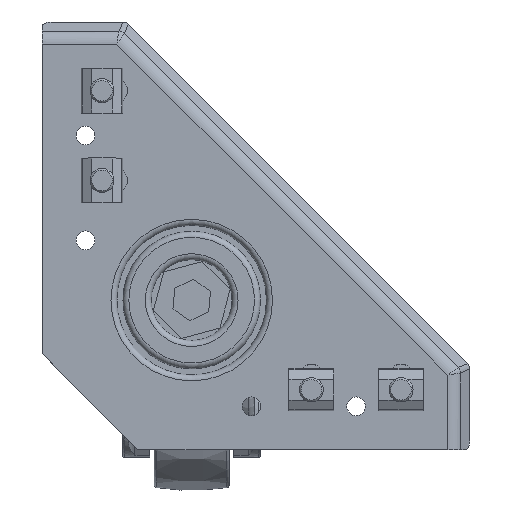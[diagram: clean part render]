
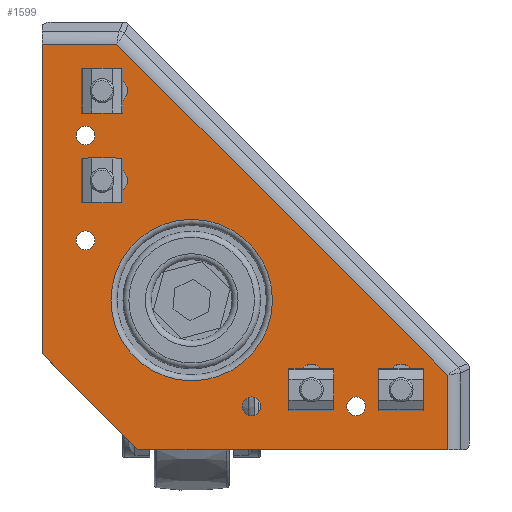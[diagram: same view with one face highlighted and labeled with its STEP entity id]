
A CAD part, top view. The second image highlights one B-rep face of the part: STEP entity #1599.
In plain terms, the highlighted planar face has unit normal (0, 0, 1).
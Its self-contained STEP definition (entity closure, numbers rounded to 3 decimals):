
#1599=ADVANCED_FACE('',(#3075,#3076,#3077,#3078,#3079,#3080,#3081,#3082,#3083,#3084),#3085,.T.);
#3075=FACE_BOUND('',#5466,.T.);
#3076=FACE_BOUND('',#5467,.T.);
#3077=FACE_BOUND('',#5468,.T.);
#3078=FACE_BOUND('',#5469,.T.);
#3079=FACE_BOUND('',#5470,.T.);
#3080=FACE_BOUND('',#5471,.T.);
#3081=FACE_BOUND('',#5472,.T.);
#3082=FACE_BOUND('',#5473,.T.);
#3083=FACE_BOUND('',#5474,.T.);
#3084=FACE_OUTER_BOUND('',#5475,.T.);
#3085=PLANE('',#5476);
#5466=EDGE_LOOP('',(#8776));
#5467=EDGE_LOOP('',(#8777,#8778,#8779,#8780));
#5468=EDGE_LOOP('',(#8781,#8782,#8783,#8784));
#5469=EDGE_LOOP('',(#8785,#8786,#8787,#8788));
#5470=EDGE_LOOP('',(#8789,#8790,#8791,#8792));
#5471=EDGE_LOOP('',(#8793));
#5472=EDGE_LOOP('',(#8794));
#5473=EDGE_LOOP('',(#8795));
#5474=EDGE_LOOP('',(#8796));
#5475=EDGE_LOOP('',(#8797,#8798,#8799,#8800,#8801,#8802));
#5476=AXIS2_PLACEMENT_3D('',#8803,#8804,#8805);
#8776=ORIENTED_EDGE('',*,*,#10636,.T.);
#8777=ORIENTED_EDGE('',*,*,#9980,.F.);
#8778=ORIENTED_EDGE('',*,*,#10680,.F.);
#8779=ORIENTED_EDGE('',*,*,#10921,.F.);
#8780=ORIENTED_EDGE('',*,*,#10749,.F.);
#8781=ORIENTED_EDGE('',*,*,#10715,.F.);
#8782=ORIENTED_EDGE('',*,*,#10336,.F.);
#8783=ORIENTED_EDGE('',*,*,#10757,.F.);
#8784=ORIENTED_EDGE('',*,*,#9856,.F.);
#8785=ORIENTED_EDGE('',*,*,#9718,.F.);
#8786=ORIENTED_EDGE('',*,*,#10377,.F.);
#8787=ORIENTED_EDGE('',*,*,#10884,.F.);
#8788=ORIENTED_EDGE('',*,*,#10541,.F.);
#8789=ORIENTED_EDGE('',*,*,#10666,.F.);
#8790=ORIENTED_EDGE('',*,*,#9908,.F.);
#8791=ORIENTED_EDGE('',*,*,#10601,.F.);
#8792=ORIENTED_EDGE('',*,*,#10318,.F.);
#8793=ORIENTED_EDGE('',*,*,#9708,.F.);
#8794=ORIENTED_EDGE('',*,*,#9950,.F.);
#8795=ORIENTED_EDGE('',*,*,#10642,.F.);
#8796=ORIENTED_EDGE('',*,*,#9785,.F.);
#8797=ORIENTED_EDGE('',*,*,#10916,.T.);
#8798=ORIENTED_EDGE('',*,*,#9773,.T.);
#8799=ORIENTED_EDGE('',*,*,#10545,.T.);
#8800=ORIENTED_EDGE('',*,*,#10922,.T.);
#8801=ORIENTED_EDGE('',*,*,#10117,.T.);
#8802=ORIENTED_EDGE('',*,*,#10923,.T.);
#8803=CARTESIAN_POINT('',(7.0,15.375,2607.877));
#8804=DIRECTION('',(0.0,0.0,1.0));
#8805=DIRECTION('',(1.0,0.0,0.0));
#9708=EDGE_CURVE('',#11282,#11282,#11283,.T.);
#9718=EDGE_CURVE('',#11299,#11300,#11301,.T.);
#9773=EDGE_CURVE('',#11391,#11395,#11397,.F.);
#9785=EDGE_CURVE('',#11417,#11417,#11418,.T.);
#9856=EDGE_CURVE('',#11534,#11535,#11536,.T.);
#9908=EDGE_CURVE('',#11624,#11625,#11626,.T.);
#9950=EDGE_CURVE('',#11694,#11694,#11695,.T.);
#9980=EDGE_CURVE('',#11744,#11745,#11746,.T.);
#10117=EDGE_CURVE('',#11971,#11972,#11973,.T.);
#10318=EDGE_CURVE('',#12299,#12300,#12301,.T.);
#10336=EDGE_CURVE('',#12326,#12327,#12328,.T.);
#10377=EDGE_CURVE('',#12387,#11299,#12388,.T.);
#10541=EDGE_CURVE('',#11300,#12607,#12608,.T.);
#10545=EDGE_CURVE('',#11395,#12612,#12614,.F.);
#10601=EDGE_CURVE('',#12300,#11624,#12686,.T.);
#10636=EDGE_CURVE('',#12735,#12735,#12736,.F.);
#10642=EDGE_CURVE('',#12743,#12743,#12744,.T.);
#10666=EDGE_CURVE('',#11625,#12299,#12773,.T.);
#10680=EDGE_CURVE('',#12791,#11744,#12792,.T.);
#10715=EDGE_CURVE('',#12327,#11534,#12838,.T.);
#10749=EDGE_CURVE('',#11745,#12879,#12880,.T.);
#10757=EDGE_CURVE('',#11535,#12326,#12889,.T.);
#10884=EDGE_CURVE('',#12607,#12387,#13045,.T.);
#10916=EDGE_CURVE('',#13082,#11391,#13083,.T.);
#10921=EDGE_CURVE('',#12879,#12791,#13088,.T.);
#10922=EDGE_CURVE('',#12612,#11971,#13089,.F.);
#10923=EDGE_CURVE('',#11972,#13082,#13090,.T.);
#11282=VERTEX_POINT('',#13643);
#11283=CIRCLE('',#13644,3.125);
#11299=VERTEX_POINT('',#13667);
#11300=VERTEX_POINT('',#13668);
#11301=LINE('',#13669,#13670);
#11391=VERTEX_POINT('',#13827);
#11395=VERTEX_POINT('',#13832);
#11397=LINE('',#13834,#13835);
#11417=VERTEX_POINT('',#13863);
#11418=CIRCLE('',#13864,3.125);
#11534=VERTEX_POINT('',#14038);
#11535=VERTEX_POINT('',#14039);
#11536=LINE('',#14040,#14041);
#11624=VERTEX_POINT('',#14250);
#11625=VERTEX_POINT('',#14251);
#11626=LINE('',#14252,#14253);
#11694=VERTEX_POINT('',#14354);
#11695=CIRCLE('',#14355,3.125);
#11744=VERTEX_POINT('',#14425);
#11745=VERTEX_POINT('',#14426);
#11746=CIRCLE('',#14427,4.15);
#11971=VERTEX_POINT('',#14807);
#11972=VERTEX_POINT('',#14808);
#11973=LINE('',#14809,#14810);
#12299=VERTEX_POINT('',#15244);
#12300=VERTEX_POINT('',#15245);
#12301=LINE('',#15246,#15247);
#12326=VERTEX_POINT('',#15282);
#12327=VERTEX_POINT('',#15283);
#12328=LINE('',#15284,#15285);
#12387=VERTEX_POINT('',#15381);
#12388=CIRCLE('',#15382,4.15);
#12607=VERTEX_POINT('',#15928);
#12608=CIRCLE('',#15929,4.15);
#12612=VERTEX_POINT('',#15934);
#12614=LINE('',#15936,#15937);
#12686=CIRCLE('',#16055,4.15);
#12735=VERTEX_POINT('',#16125);
#12736=CIRCLE('',#16126,27.0);
#12743=VERTEX_POINT('',#16135);
#12744=CIRCLE('',#16136,3.125);
#12773=CIRCLE('',#16180,4.15);
#12791=VERTEX_POINT('',#16215);
#12792=LINE('',#16216,#16217);
#12838=CIRCLE('',#16323,4.15);
#12879=VERTEX_POINT('',#16394);
#12880=LINE('',#16395,#16396);
#12889=CIRCLE('',#16407,4.15);
#13045=LINE('',#16674,#16675);
#13082=VERTEX_POINT('',#16728);
#13083=LINE('',#16729,#16730);
#13088=CIRCLE('',#16737,4.15);
#13089=LINE('',#16738,#16739);
#13090=LINE('',#16740,#16741);
#13643=CARTESIAN_POINT('',(73.125,54.875,2607.877));
#13644=AXIS2_PLACEMENT_3D('',#17082,#17083,#17084);
#13667=CARTESIAN_POINT('',(94.15,59.975,2607.877));
#13668=CARTESIAN_POINT('',(94.15,64.775,2607.877));
#13669=CARTESIAN_POINT('',(94.15,59.975,2607.877));
#13670=VECTOR('',#17096,1.0);
#13827=CARTESIAN_POINT('',(135.61,40.375,2607.877));
#13832=CARTESIAN_POINT('',(135.61,65.313,2607.877));
#13834=CARTESIAN_POINT('',(135.61,65.433,2607.877));
#13835=VECTOR('',#17171,1.0);
#13863=CARTESIAN_POINT('',(17.625,110.375,2607.877));
#13864=AXIS2_PLACEMENT_3D('',#17180,#17181,#17182);
#14038=CARTESIAN_POINT('',(124.15,59.975,2607.877));
#14039=CARTESIAN_POINT('',(124.15,64.775,2607.877));
#14040=CARTESIAN_POINT('',(124.15,59.975,2607.877));
#14041=VECTOR('',#17275,1.0);
#14250=CARTESIAN_POINT('',(19.6,126.225,2607.877));
#14251=CARTESIAN_POINT('',(24.4,126.225,2607.877));
#14252=CARTESIAN_POINT('',(19.6,126.225,2607.877));
#14253=VECTOR('',#17328,1.0);
#14354=CARTESIAN_POINT('',(108.125,54.875,2607.877));
#14355=AXIS2_PLACEMENT_3D('',#17372,#17373,#17374);
#14425=CARTESIAN_POINT('',(24.4,156.225,2607.877));
#14426=CARTESIAN_POINT('',(24.4,164.525,2607.877));
#14427=AXIS2_PLACEMENT_3D('',#17406,#17407,#17408);
#14807=CARTESIAN_POINT('',(0.0,175.984,2607.877));
#14808=CARTESIAN_POINT('',(0.0,72.375,2607.877));
#14809=CARTESIAN_POINT('',(0.0,184.529,2607.877));
#14810=VECTOR('',#17573,1.0);
#15244=CARTESIAN_POINT('',(24.4,134.525,2607.877));
#15245=CARTESIAN_POINT('',(19.6,134.525,2607.877));
#15246=CARTESIAN_POINT('',(24.4,134.525,2607.877));
#15247=VECTOR('',#17907,1.0);
#15282=CARTESIAN_POINT('',(115.85,64.775,2607.877));
#15283=CARTESIAN_POINT('',(115.85,59.975,2607.877));
#15284=CARTESIAN_POINT('',(115.85,64.775,2607.877));
#15285=VECTOR('',#17924,1.0);
#15381=CARTESIAN_POINT('',(85.85,59.975,2607.877));
#15382=AXIS2_PLACEMENT_3D('',#17963,#17964,#17965);
#15928=CARTESIAN_POINT('',(85.85,64.775,2607.877));
#15929=AXIS2_PLACEMENT_3D('',#18087,#18088,#18089);
#15934=CARTESIAN_POINT('',(24.939,175.984,2607.877));
#15936=CARTESIAN_POINT('',(24.854,176.069,2607.877));
#15937=VECTOR('',#18094,1.0);
#16055=AXIS2_PLACEMENT_3D('',#18156,#18157,#18158);
#16125=CARTESIAN_POINT('',(77.0,90.375,2607.877));
#16126=AXIS2_PLACEMENT_3D('',#18193,#18194,#18195);
#16135=CARTESIAN_POINT('',(17.625,145.375,2607.877));
#16136=AXIS2_PLACEMENT_3D('',#18201,#18202,#18203);
#16180=AXIS2_PLACEMENT_3D('',#18226,#18227,#18228);
#16215=CARTESIAN_POINT('',(19.6,156.225,2607.877));
#16216=CARTESIAN_POINT('',(19.6,156.225,2607.877));
#16217=VECTOR('',#18234,1.0);
#16323=AXIS2_PLACEMENT_3D('',#18265,#18266,#18267);
#16394=CARTESIAN_POINT('',(19.6,164.525,2607.877));
#16395=CARTESIAN_POINT('',(24.4,164.525,2607.877));
#16396=VECTOR('',#18295,1.0);
#16407=AXIS2_PLACEMENT_3D('',#18304,#18305,#18306);
#16674=CARTESIAN_POINT('',(85.85,64.775,2607.877));
#16675=VECTOR('',#18412,1.0);
#16728=CARTESIAN_POINT('',(32.0,40.375,2607.877));
#16729=CARTESIAN_POINT('',(32.0,40.375,2607.877));
#16730=VECTOR('',#18435,1.0);
#16737=AXIS2_PLACEMENT_3D('',#18438,#18439,#18440);
#16738=CARTESIAN_POINT('',(0.0,175.984,2607.877));
#16739=VECTOR('',#18441,1.0);
#16740=CARTESIAN_POINT('',(0.0,72.375,2607.877));
#16741=VECTOR('',#18442,1.0);
#17082=CARTESIAN_POINT('',(70.0,54.875,2607.877));
#17083=DIRECTION('',(0.0,0.0,1.0));
#17084=DIRECTION('',(1.0,0.0,0.0));
#17096=DIRECTION('',(0.0,1.0,0.0));
#17171=DIRECTION('',(0.0,-1.0,0.0));
#17180=CARTESIAN_POINT('',(14.5,110.375,2607.877));
#17181=DIRECTION('',(0.0,0.0,1.0));
#17182=DIRECTION('',(1.0,0.0,0.0));
#17275=DIRECTION('',(0.0,1.0,0.0));
#17328=DIRECTION('',(1.0,0.0,0.0));
#17372=CARTESIAN_POINT('',(105.0,54.875,2607.877));
#17373=DIRECTION('',(0.0,0.0,1.0));
#17374=DIRECTION('',(1.0,0.0,0.0));
#17406=CARTESIAN_POINT('',(24.4,160.375,2607.877));
#17407=DIRECTION('',(0.0,0.0,1.0));
#17408=DIRECTION('',(1.0,0.0,0.0));
#17573=DIRECTION('',(0.0,-1.0,0.0));
#17907=DIRECTION('',(-1.0,0.,0.0));
#17924=DIRECTION('',(0.0,-1.0,0.0));
#17963=CARTESIAN_POINT('',(90.0,59.975,2607.877));
#17964=DIRECTION('',(0.0,0.0,1.0));
#17965=DIRECTION('',(1.0,0.0,0.0));
#18087=CARTESIAN_POINT('',(90.0,64.775,2607.877));
#18088=DIRECTION('',(0.0,0.0,1.0));
#18089=DIRECTION('',(1.0,0.0,0.0));
#18094=DIRECTION('',(0.707,-0.707,0.0));
#18156=CARTESIAN_POINT('',(19.6,130.375,2607.877));
#18157=DIRECTION('',(0.0,0.0,1.0));
#18158=DIRECTION('',(1.0,0.0,0.0));
#18193=CARTESIAN_POINT('',(50.0,90.375,2607.877));
#18194=DIRECTION('',(0.0,0.0,1.0));
#18195=DIRECTION('',(1.0,0.0,0.0));
#18201=CARTESIAN_POINT('',(14.5,145.375,2607.877));
#18202=DIRECTION('',(0.0,0.0,1.0));
#18203=DIRECTION('',(1.0,0.0,0.0));
#18226=CARTESIAN_POINT('',(24.4,130.375,2607.877));
#18227=DIRECTION('',(0.0,0.0,1.0));
#18228=DIRECTION('',(1.0,0.0,0.0));
#18234=DIRECTION('',(1.0,0.0,0.0));
#18265=CARTESIAN_POINT('',(120.0,59.975,2607.877));
#18266=DIRECTION('',(0.0,0.0,1.0));
#18267=DIRECTION('',(1.0,0.0,0.0));
#18295=DIRECTION('',(-1.0,0.0,0.0));
#18304=CARTESIAN_POINT('',(120.0,64.775,2607.877));
#18305=DIRECTION('',(0.0,0.0,1.0));
#18306=DIRECTION('',(1.0,0.0,0.0));
#18412=DIRECTION('',(0.0,-1.0,0.0));
#18435=DIRECTION('',(1.0,0.0,0.0));
#18438=CARTESIAN_POINT('',(19.6,160.375,2607.877));
#18439=DIRECTION('',(0.0,0.0,1.0));
#18440=DIRECTION('',(1.0,0.0,0.0));
#18441=DIRECTION('',(1.0,0.0,0.0));
#18442=DIRECTION('',(0.707,-0.707,0.0));
